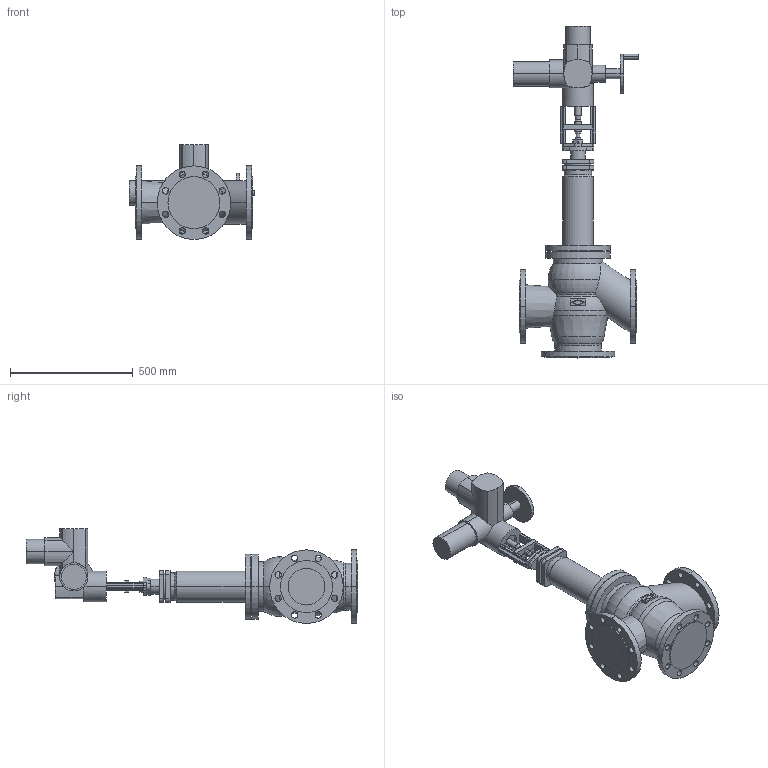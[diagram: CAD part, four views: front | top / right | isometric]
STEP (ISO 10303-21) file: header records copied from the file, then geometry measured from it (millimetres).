
FILE_DESCRIPTION(('OneSpaceDesigner STEP Export'),'2;1');
FILE_NAME('c000003212.stp','2007-01-25T12:01:28',(''),(''),'OneSpace Designer STEP processor for AP214 (Solid Model)','OneSpace Designer 14.00B 27-May-2006 (C) CoCreate Software GmbH','');
FILE_SCHEMA(('AUTOMOTIVE_DESIGN { 1 0 10303 214 1 1 1 1 }'));
Length unit declared in the file: millimetre
Products named in the file (2): 1; 2
Bounding box: 514 x 1354.2 x 387 mm (x, y, z)
Volume: 41774054.9 mm3; surface area: 1605919.5 mm2
Topology: 2 solids, 2 shells, 361 faces, 926 edges, 592 vertices
Faces by surface type: cylinder 176, plane 159, torus 16, cone 10
Entity records: 10490 total; most frequent: CARTESIAN_POINT 2255, ORIENTED_EDGE 1852, DIRECTION 1532, EDGE_CURVE 926, VERTEX_POINT 592, AXIS2_PLACEMENT_3D 533, VECTOR 466, LINE 466
